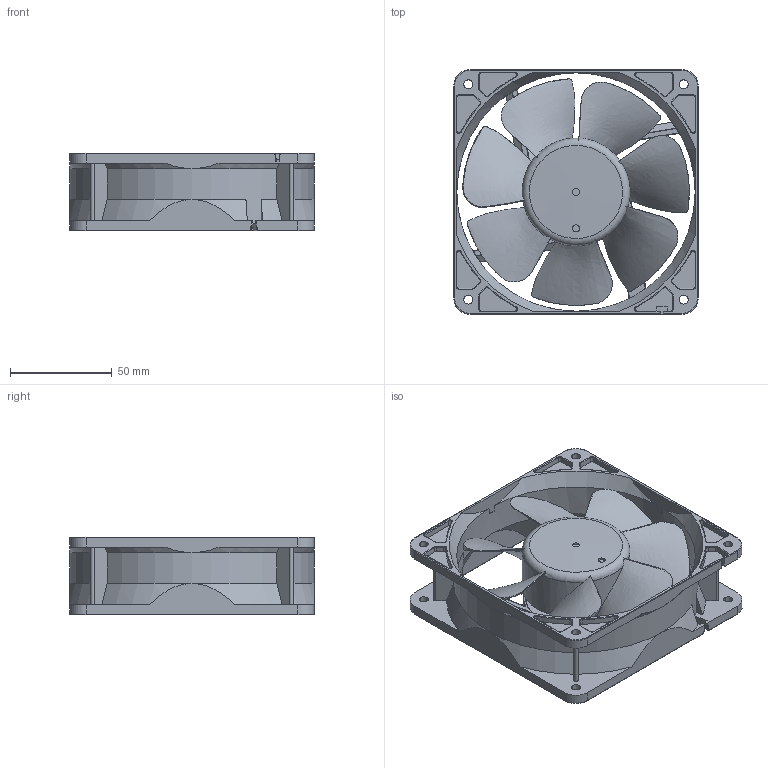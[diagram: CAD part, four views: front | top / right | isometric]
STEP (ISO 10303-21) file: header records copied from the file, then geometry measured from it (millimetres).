
FILE_DESCRIPTION(/* description */ (''),/* implementation_level */ '2;1');
FILE_NAME(/* name */ '12038.stp',/* time_stamp */ '2024-07-27T08:44:13+08:00',/* author */ (''),/* organization */ (''),/* preprocessor_version */ 'ST-DEVELOPER v16',/* originating_system */ 'SIEMENS PLM Software NX 10.0',/* authorisation */ '');
FILE_SCHEMA (('CONFIG_CONTROL_DESIGN'));
Length unit declared in the file: millimetre
Products named in the file (1): 12038k1(A121A)+1238y1（F48A）_stp
Bounding box: 120.1 x 120.1 x 38.24 mm (x, y, z)
Volume: 52107.7 mm3; surface area: 85815.7 mm2
Topology: 3 solids, 6 shells, 949 faces, 2449 edges, 1529 vertices
Faces by surface type: cylinder 324, plane 246, torus 143, bspline 130, cone 106
Full cylindrical faces by diameter (mm): 2.4 x1, 2.992 x3, 3.483 x2, 12.5 x1, 53 x1
Entity records: 50394 total; most frequent: CARTESIAN_POINT 28193, ORIENTED_EDGE 4832, DIRECTION 4478, EDGE_CURVE 2416, AXIS2_PLACEMENT_3D 1839, VERTEX_POINT 1516, EDGE_LOOP 1012, CIRCLE 960
